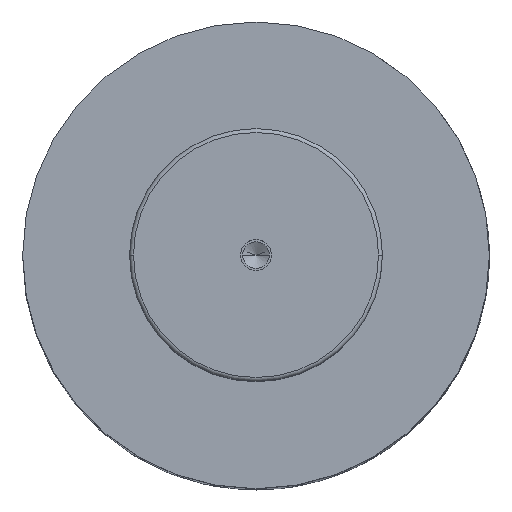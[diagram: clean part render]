
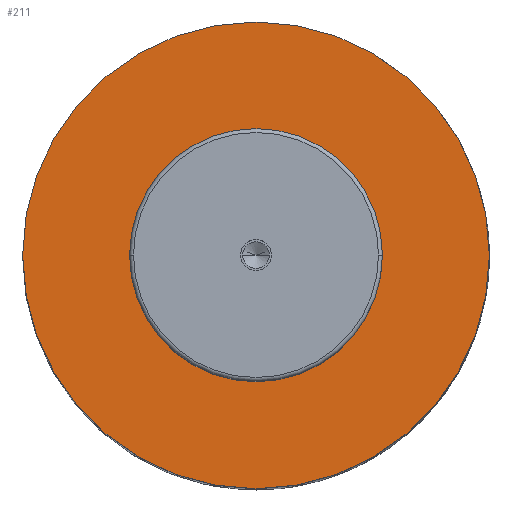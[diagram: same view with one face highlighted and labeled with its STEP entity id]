
A CAD part, top view. The second image highlights one B-rep face of the part: STEP entity #211.
In plain terms, the highlighted planar face has unit normal (0, 0, 1).
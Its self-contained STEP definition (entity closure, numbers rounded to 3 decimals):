
#109=PLANE('',#1266);
#138=FACE_BOUND('',#359,.T.);
#139=FACE_BOUND('',#360,.T.);
#211=ADVANCED_FACE('',(#138,#139),#109,.T.);
#359=EDGE_LOOP('',(#571,#572));
#360=EDGE_LOOP('',(#573,#574));
#451=CIRCLE('',#1260,32.5);
#452=CIRCLE('',#1262,32.5);
#453=CIRCLE('',#1264,60.);
#454=CIRCLE('',#1265,60.);
#571=ORIENTED_EDGE('',*,*,#970,.F.);
#572=ORIENTED_EDGE('',*,*,#971,.F.);
#573=ORIENTED_EDGE('',*,*,#969,.T.);
#574=ORIENTED_EDGE('',*,*,#967,.T.);
#856=VERTEX_POINT('',#1837);
#857=VERTEX_POINT('',#1839);
#858=VERTEX_POINT('',#1845);
#859=VERTEX_POINT('',#1846);
#967=EDGE_CURVE('',#857,#856,#451,.T.);
#969=EDGE_CURVE('',#856,#857,#452,.T.);
#970=EDGE_CURVE('',#858,#859,#453,.T.);
#971=EDGE_CURVE('',#859,#858,#454,.T.);
#1260=AXIS2_PLACEMENT_3D('',#1838,#1456,#1457);
#1262=AXIS2_PLACEMENT_3D('',#1842,#1461,#1462);
#1264=AXIS2_PLACEMENT_3D('',#1844,#1465,#1466);
#1265=AXIS2_PLACEMENT_3D('',#1847,#1467,#1468);
#1266=AXIS2_PLACEMENT_3D('',#1848,#1469,#1470);
#1456=DIRECTION('',(0.,0.,-1.));
#1457=DIRECTION('',(0.,1.,0.));
#1461=DIRECTION('',(0.,0.,-1.));
#1462=DIRECTION('',(0.,-1.,0.));
#1465=DIRECTION('',(0.,0.,-1.));
#1466=DIRECTION('',(0.,1.,0.));
#1467=DIRECTION('',(0.,0.,-1.));
#1468=DIRECTION('',(0.,-1.,0.));
#1469=DIRECTION('',(0.,0.,1.));
#1470=DIRECTION('',(0.,-1.,0.));
#1837=CARTESIAN_POINT('',(-32.5,0.,187.));
#1838=CARTESIAN_POINT('',(0.,0.,187.));
#1839=CARTESIAN_POINT('',(32.5,0.,187.));
#1842=CARTESIAN_POINT('',(0.,0.,187.));
#1844=CARTESIAN_POINT('',(0.,0.,187.));
#1845=CARTESIAN_POINT('',(60.,0.,187.));
#1846=CARTESIAN_POINT('',(-60.,0.,187.));
#1847=CARTESIAN_POINT('',(0.,0.,187.));
#1848=CARTESIAN_POINT('',(0.,0.,187.));
